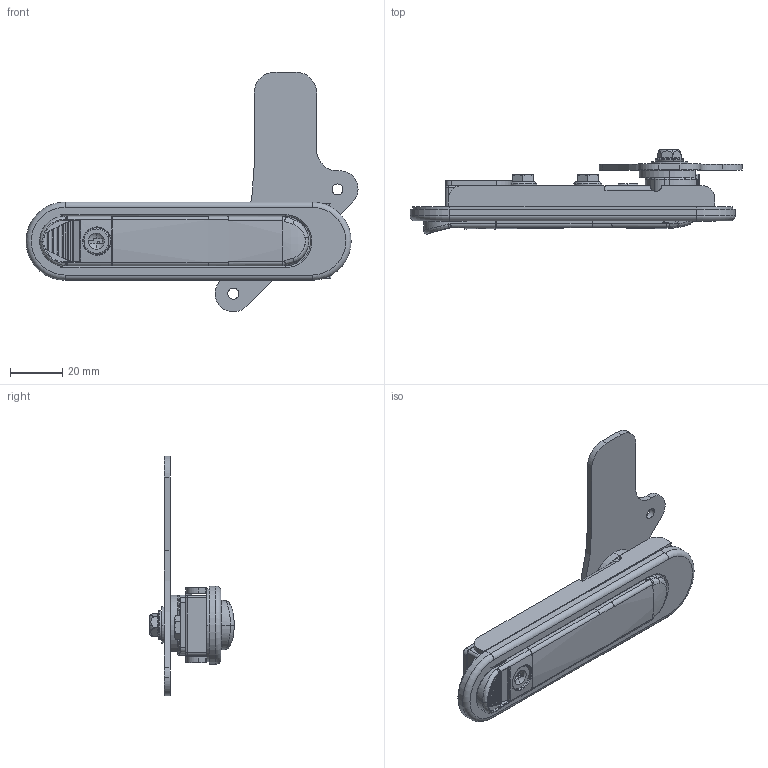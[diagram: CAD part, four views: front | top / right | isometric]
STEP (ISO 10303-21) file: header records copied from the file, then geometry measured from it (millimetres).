
FILE_DESCRIPTION (( 'STEP AP214' ), '1' );
FILE_NAME ('CUYUE.AB302-G.STEP', '2026-07-15T04:48:02', ( '' ), ( '' ), 'SwSTEP 2.0', 'SolidWorks 2020', '' );
FILE_SCHEMA (( 'AUTOMOTIVE_DESIGN' ));
Length unit declared in the file: millimetre
Products named in the file (1): CUYUE.AB302-G
Bounding box: 127.42 x 32.38 x 91.99 mm (x, y, z)
Surface area: 31146.7 mm2 (no closed solid volume)
Topology: 0 solids, 5 shells, 1188 faces, 3161 edges, 1984 vertices
Faces by surface type: plane 480, cylinder 386, bspline 138, torus 120, cone 34, sphere 30
Entity records: 48873 total; most frequent: CARTESIAN_POINT 20934, ORIENTED_EDGE 6308, DIRECTION 5321, EDGE_CURVE 3158, VERTEX_POINT 1982, AXIS2_PLACEMENT_3D 1906, LINE 1509, VECTOR 1509
